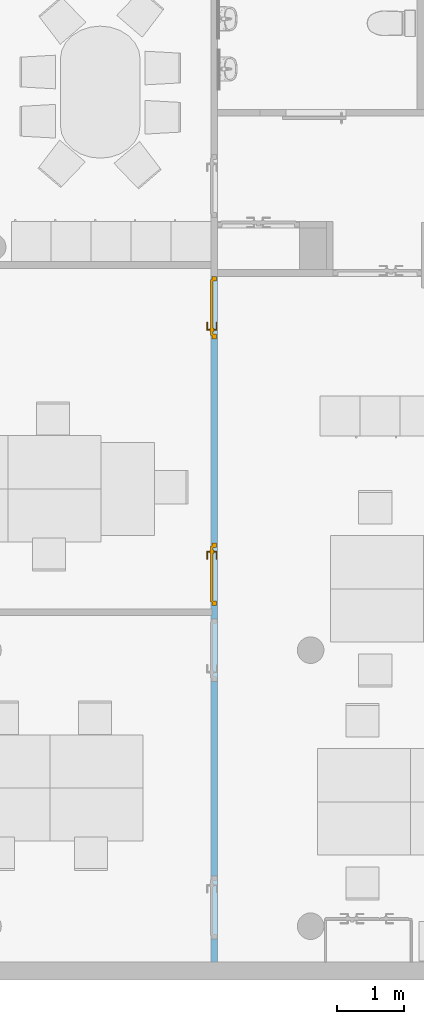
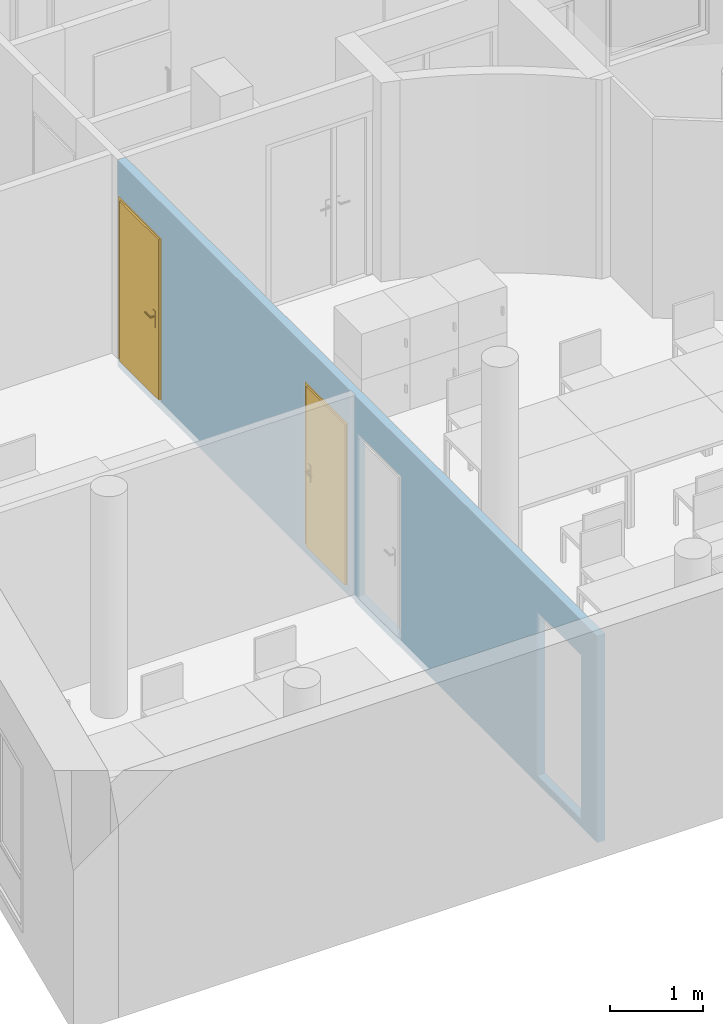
"""IFC4 building model written with IfcOpenShell, lengths in metres."""

from ifc_helpers import new_model, entity, si_unit, converted_unit, derived_unit, frame, origin, origin_with_axes, place, context, subcontext, project, spatial, polyline, outline, extrude, faceted_brep, source, transform, mapped, material, layer, layer_set, layer_usage, element, fill, save


model = new_model("IFC4")

# Units and contexts
model_context = context("Model", 3, precision=1e-05, world=origin())
body_context = subcontext(model_context, "Body", "Model", "MODEL_VIEW")
ifc_project = project(units=[si_unit("LENGTHUNIT", "METRE"), si_unit("AREAUNIT", "SQUARE_METRE"), si_unit("VOLUMEUNIT", "CUBIC_METRE"), si_unit("MASSUNIT", "GRAM", prefix="KILO"), converted_unit("PLANEANGLEUNIT", "DEGREE", entity("IfcPlaneAngleMeasure", 0.0174532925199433), si_unit("PLANEANGLEUNIT", "RADIAN"), dimensions=[0, 0, 0, 0, 0, 0, 0]), derived_unit("THERMALTRANSMITTANCEUNIT", [(si_unit("POWERUNIT", "WATT"), 1), (si_unit("THERMODYNAMICTEMPERATUREUNIT", "KELVIN"), -1), (si_unit("LENGTHUNIT", "METRE"), -2)]), derived_unit("VOLUMETRICFLOWRATEUNIT", [(si_unit("LENGTHUNIT", "METRE"), 3), (converted_unit("TIMEUNIT", "hour", entity("IfcTimeMeasure", 3600.0), si_unit("TIMEUNIT", "SECOND"), dimensions=[0, 0, 1, 0, 0, 0, 0]), -1), (si_unit("LENGTHUNIT", "METRE"), -1)])], contexts=[model_context])

# Building, storeys
building_placement = place(None, origin())
building = spatial("IfcBuilding", under=ifc_project, at=building_placement, Name="HABITATGE PLURIFAMILIAR", CompositionType="ELEMENT")
storey_1_placement = place(building_placement, frame((0.0, 0.0, 18.29)))
storey_1 = spatial("IfcBuildingStorey", under=building, at=storey_1_placement, Name="PLANTA CINQUENA", CompositionType="ELEMENT", Elevation=18.29)
storey_2_placement = place(storey_1_placement, frame((0.0, 0.0, 15.28)))
storey_2 = spatial("IfcBuildingStorey", under=storey_1, at=storey_2_placement, Name="NOU", CompositionType="PARTIAL")

# Wall, openings, doors
ifc_material = material()
ifc_layer = layer(ifc_material, 0.1)
ifc_layer_set = layer_set([ifc_layer])
ifc_layer_usage = layer_usage(ifc_layer_set, "AXIS2", "POSITIVE", 0.0)
wall_placement = place(storey_2_placement, frame((404.436984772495, 13.1106121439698, -15.38), z_axis=(0.0, 0.0, 1.0), x_axis=(0.0, 1.0, 0.0)))
wall = element("IfcWall", 1, at=wall_placement, inside=storey_2, material=ifc_layer_usage, Name="Mampara P5", context=body_context, shape_type="SweptSolid", body=[
    extrude(outline(polyline([(0.0, -0.1), (10.3088477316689, -0.1), (10.3088477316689, 0.0), (5.31089460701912, 0.0), (5.31089460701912, -0.0155478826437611), (5.21089460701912, -0.0155478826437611), (5.21089460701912, 0.0), (0.0, 0.0), (0.0, -0.1)])), frame((0.0, 0.1, 0.0), z_axis=(0.0, 0.0, 1.0), x_axis=(1.0, 0.0, 0.0)), (0.0, 0.0, 1.0), 2.71),
])
opening_1_placement = place(wall_placement, frame((9.36884773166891, 0.0, 0.1), z_axis=(0.0, 1.0, 0.0), x_axis=(0.0, 0.0, 1.0)))
opening_1 = element("IfcOpeningElement", 2, at=opening_1_placement, cuts=wall, Name="Vano porta P5", ObjectType="Opening", context=body_context, shape_type="SweptSolid", body=[
    extrude(outline(polyline([(2.15, 0.940000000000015), (2.15, 0.0), (0.0, 0.0), (0.0, 0.940000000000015), (2.15, 0.940000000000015)])), origin_with_axes(), (0.0, 0.0, 1.0), 0.1),
])
opening_2_placement = place(wall_placement, frame((5.36089460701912, 0.0, 0.1), z_axis=(0.0, 1.0, 0.0), x_axis=(0.0, 0.0, 1.0)))
opening_2 = element("IfcOpeningElement", 3, at=opening_2_placement, cuts=wall, Name="Vano porta P5", ObjectType="Opening", context=body_context, shape_type="SweptSolid", body=[
    extrude(outline(polyline([(2.15, 0.94), (2.15, 0.0), (0.0, 0.0), (0.0, 0.94), (2.15, 0.94)])), origin_with_axes(), (0.0, 0.0, 1.0), 0.1),
])
opening_3_placement = place(wall_placement, frame((4.22089460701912, 0.0, 0.1), z_axis=(0.0, 1.0, 0.0), x_axis=(0.0, 0.0, 1.0)))
element("IfcOpeningElement", 4, at=opening_3_placement, cuts=wall, Name="Vano porta P5", ObjectType="Opening", context=body_context, shape_type="SweptSolid", body=[
    extrude(outline(polyline([(2.15, 0.94), (2.15, 0.0), (0.0, 0.0), (0.0, 0.94), (2.15, 0.94)])), origin_with_axes(), (0.0, 0.0, 1.0), 0.1),
])
opening_4_placement = place(wall_placement, frame((0.35, 0.0, 0.1), z_axis=(0.0, 1.0, 0.0), x_axis=(0.0, 0.0, 1.0)))
element("IfcOpeningElement", 5, at=opening_4_placement, cuts=wall, Name="Vano porta P5", ObjectType="Opening", context=body_context, shape_type="SweptSolid", body=[
    extrude(outline(polyline([(2.15, 0.94), (2.15, 0.0), (0.0, 0.0), (0.0, 0.94), (2.15, 0.94)])), origin_with_axes(), (0.0, 0.0, 1.0), 0.1),
])
shared_shape_1 = source(origin_with_axes(), body_context, "Body", "Brep", [
    faceted_brep([(0.0, 0.0700000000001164, 2.15), (0.0, 0.0700000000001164, 0.0), (0.0699999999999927, 0.0700000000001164, 0.0), (0.0699999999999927, 0.0700000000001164, 2.15), (0.0, 0.0, 0.0), (0.0, 0.0, 2.15), (0.0699999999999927, 0.0, 2.15), (0.0699999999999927, 0.0, 0.0)], [[[0, 1, 2, 3]], [[4, 5, 6, 7]], [[1, 0, 5, 4]], [[2, 1, 4, 7]], [[3, 2, 7, 6]], [[0, 3, 6, 5]]], orient=[[False], [False], [False], [False], [False], [False]]),
    faceted_brep([(0.870000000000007, 0.0700000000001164, 2.15), (0.870000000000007, 0.0700000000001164, 0.0), (0.940000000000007, 0.0700000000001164, 0.0), (0.940000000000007, 0.0700000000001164, 2.15), (0.870000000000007, 0.0, 0.0), (0.870000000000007, 0.0, 2.15), (0.940000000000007, 0.0, 2.15), (0.940000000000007, 0.0, 0.0)], [[[0, 1, 2, 3]], [[4, 5, 6, 7]], [[1, 0, 5, 4]], [[2, 1, 4, 7]], [[3, 2, 7, 6]], [[0, 3, 6, 5]]], orient=[[False], [False], [False], [False], [False], [False]]),
    faceted_brep([(0.0699999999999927, 0.0700000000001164, 2.15), (0.0699999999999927, 0.0700000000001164, 2.08), (0.870000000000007, 0.0700000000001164, 2.08), (0.870000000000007, 0.0700000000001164, 2.15), (0.0699999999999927, 0.0, 2.08), (0.0699999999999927, 0.0, 2.15), (0.870000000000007, 0.0, 2.15), (0.870000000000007, 0.0, 2.08)], [[[0, 1, 2, 3]], [[4, 5, 6, 7]], [[1, 0, 5, 4]], [[2, 1, 4, 7]], [[3, 2, 7, 6]], [[0, 3, 6, 5]]], orient=[[False], [False], [False], [False], [False], [False]]),
    faceted_brep([(0.0499999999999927, 0.0900000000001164, 2.1), (0.0499999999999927, 0.0900000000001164, 0.0), (0.890000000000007, 0.0900000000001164, 0.0), (0.890000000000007, 0.0900000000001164, 2.1), (0.0499999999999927, 0.0500000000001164, 0.0), (0.0499999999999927, 0.0500000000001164, 2.1), (0.890000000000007, 0.0500000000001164, 2.1), (0.890000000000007, 0.0500000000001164, 0.0)], [[[0, 1, 2, 3]], [[4, 5, 6, 7]], [[1, 0, 5, 4]], [[2, 1, 4, 7]], [[3, 2, 7, 6]], [[0, 3, 6, 5]]], orient=[[False], [False], [False], [False], [False], [False]]),
    faceted_brep([(0.109999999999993, 0.0500000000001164, 1.125), (0.109999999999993, 0.0500000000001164, 0.91), (0.159999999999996, 0.0500000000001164, 0.91), (0.159999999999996, 0.0500000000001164, 1.125), (0.109999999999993, 0.0400000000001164, 0.91), (0.109999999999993, 0.0400000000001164, 1.125), (0.159999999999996, 0.0400000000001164, 1.125), (0.159999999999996, 0.0400000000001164, 0.91)], [[[0, 1, 2, 3]], [[4, 5, 6, 7]], [[1, 0, 5, 4]], [[2, 1, 4, 7]], [[3, 2, 7, 6]], [[0, 3, 6, 5]]], orient=[[False], [False], [False], [False], [False], [False]]),
    faceted_brep([(0.134999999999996, 0.0400000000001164, 1.06), (0.129999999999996, 0.0400000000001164, 1.05866025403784), (0.126339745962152, 0.0400000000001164, 1.055), (0.124999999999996, 0.0400000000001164, 1.05), (0.126339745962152, 0.0400000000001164, 1.045), (0.129999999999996, 0.0400000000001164, 1.04133974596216), (0.134999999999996, 0.0400000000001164, 1.04), (0.139999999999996, 0.0400000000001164, 1.04133974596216), (0.143660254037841, 0.0400000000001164, 1.045), (0.144999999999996, 0.0400000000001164, 1.05), (0.143660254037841, 0.0400000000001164, 1.055), (0.139999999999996, 0.0400000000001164, 1.05866025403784), (0.134999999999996, 0.0, 1.06), (0.129999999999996, -0.00499999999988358, 1.05866025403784), (0.126339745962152, -0.00866025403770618, 1.055), (0.124999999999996, -0.00999999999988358, 1.05), (0.126339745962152, -0.00866025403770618, 1.045), (0.129999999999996, -0.00499999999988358, 1.04133974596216), (0.134999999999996, 0.0, 1.04), (0.139999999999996, 0.00500000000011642, 1.04133974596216), (0.143660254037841, 0.00866025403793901, 1.045), (0.144999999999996, 0.0100000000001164, 1.05), (0.143660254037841, 0.00866025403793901, 1.055), (0.139999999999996, 0.00500000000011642, 1.05866025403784), (0.249999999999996, 0.0, 1.06), (0.249999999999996, 0.00500000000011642, 1.05866025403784), (0.249999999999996, 0.00866025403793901, 1.055), (0.249999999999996, 0.0100000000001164, 1.05), (0.249999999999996, 0.00866025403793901, 1.045), (0.249999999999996, 0.00500000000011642, 1.04133974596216), (0.249999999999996, 0.0, 1.04), (0.249999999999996, -0.00499999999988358, 1.04133974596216), (0.249999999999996, -0.00866025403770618, 1.045), (0.249999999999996, -0.00999999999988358, 1.05), (0.249999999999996, -0.00866025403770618, 1.055), (0.249999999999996, -0.00499999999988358, 1.05866025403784)], [[[0, 1, 2, 3, 4, 5, 6, 7, 8, 9, 10, 11]], [[0, 12, 13, 1]], [[1, 13, 14, 2]], [[2, 14, 15, 3]], [[3, 15, 16, 4]], [[4, 16, 17, 5]], [[5, 17, 18, 6]], [[6, 18, 19, 7]], [[7, 19, 20, 8]], [[8, 20, 21, 9]], [[9, 21, 22, 10]], [[10, 22, 23, 11]], [[11, 23, 12, 0]], [[24, 25, 26, 27, 28, 29, 30, 31, 32, 33, 34, 35]], [[12, 24, 35, 13]], [[13, 35, 34, 14]], [[14, 34, 33, 15]], [[15, 33, 32, 16]], [[16, 32, 31, 17]], [[17, 31, 30, 18]], [[18, 30, 29, 19]], [[19, 29, 28, 20]], [[20, 28, 27, 21]], [[21, 27, 26, 22]], [[22, 26, 25, 23]], [[23, 25, 24, 12]]], orient=[[False], [False], [False], [False], [False], [False], [False], [False], [False], [False], [False], [False], [False], [False], [False], [False], [False], [False], [False], [False], [False], [False], [False], [False], [False], [False]]),
    faceted_brep([(0.109999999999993, 0.0900000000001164, 1.125), (0.159999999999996, 0.0900000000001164, 1.125), (0.159999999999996, 0.0900000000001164, 0.91), (0.109999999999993, 0.0900000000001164, 0.91), (0.109999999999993, 0.100000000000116, 0.91), (0.159999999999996, 0.100000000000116, 0.91), (0.159999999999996, 0.100000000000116, 1.125), (0.109999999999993, 0.100000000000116, 1.125)], [[[0, 1, 2, 3]], [[4, 5, 6, 7]], [[3, 4, 7, 0]], [[2, 5, 4, 3]], [[1, 6, 5, 2]], [[0, 7, 6, 1]]], orient=[[False], [False], [False], [False], [False], [False]]),
    faceted_brep([(0.134999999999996, 0.100000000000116, 1.06), (0.139999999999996, 0.100000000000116, 1.05866025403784), (0.143660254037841, 0.100000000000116, 1.055), (0.144999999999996, 0.100000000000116, 1.05), (0.143660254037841, 0.100000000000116, 1.045), (0.139999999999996, 0.100000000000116, 1.04133974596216), (0.134999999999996, 0.100000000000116, 1.04), (0.129999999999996, 0.100000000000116, 1.04133974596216), (0.126339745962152, 0.100000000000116, 1.045), (0.124999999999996, 0.100000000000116, 1.05), (0.126339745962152, 0.100000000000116, 1.055), (0.129999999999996, 0.100000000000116, 1.05866025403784), (0.129999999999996, 0.145000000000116, 1.05866025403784), (0.134999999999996, 0.140000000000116, 1.06), (0.126339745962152, 0.148660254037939, 1.055), (0.124999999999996, 0.150000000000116, 1.05), (0.126339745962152, 0.148660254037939, 1.045), (0.129999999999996, 0.145000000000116, 1.04133974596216), (0.134999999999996, 0.140000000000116, 1.04), (0.139999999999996, 0.135000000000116, 1.04133974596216), (0.143660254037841, 0.131339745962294, 1.045), (0.144999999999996, 0.130000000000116, 1.05), (0.143660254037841, 0.131339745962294, 1.055), (0.139999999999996, 0.135000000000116, 1.05866025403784), (0.249999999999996, 0.140000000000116, 1.06), (0.249999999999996, 0.145000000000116, 1.05866025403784), (0.249999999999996, 0.148660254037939, 1.055), (0.249999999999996, 0.150000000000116, 1.05), (0.249999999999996, 0.148660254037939, 1.045), (0.249999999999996, 0.145000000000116, 1.04133974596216), (0.249999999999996, 0.140000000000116, 1.04), (0.249999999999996, 0.135000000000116, 1.04133974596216), (0.249999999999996, 0.131339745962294, 1.045), (0.249999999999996, 0.130000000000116, 1.05), (0.249999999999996, 0.131339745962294, 1.055), (0.249999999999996, 0.135000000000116, 1.05866025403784)], [[[0, 1, 2, 3, 4, 5, 6, 7, 8, 9, 10, 11]], [[0, 11, 12, 13]], [[11, 10, 14, 12]], [[10, 9, 15, 14]], [[9, 8, 16, 15]], [[8, 7, 17, 16]], [[7, 6, 18, 17]], [[6, 5, 19, 18]], [[5, 4, 20, 19]], [[4, 3, 21, 20]], [[3, 2, 22, 21]], [[2, 1, 23, 22]], [[1, 0, 13, 23]], [[24, 25, 26, 27, 28, 29, 30, 31, 32, 33, 34, 35]], [[13, 12, 25, 24]], [[12, 14, 26, 25]], [[14, 15, 27, 26]], [[15, 16, 28, 27]], [[16, 17, 29, 28]], [[17, 18, 30, 29]], [[18, 19, 31, 30]], [[19, 20, 32, 31]], [[20, 21, 33, 32]], [[21, 22, 34, 33]], [[22, 23, 35, 34]], [[23, 13, 24, 35]]], orient=[[False], [False], [False], [False], [False], [False], [False], [False], [False], [False], [False], [False], [False], [False], [False], [False], [False], [False], [False], [False], [False], [False], [False], [False], [False], [False]]),
])
door_1_placement = place(opening_1_placement, frame((0.0, 0.0, 0.015), z_axis=(1.0, 0.0, 0.0), x_axis=(0.0, 1.0, 0.0)))
door_1 = element("IfcDoor", 6, at=door_1_placement, inside=storey_2, Name="Porta P5", OperationType="USERDEFINED", OverallHeight=2.15, OverallWidth=0.94, PredefinedType="DOOR", context=body_context, shape_type="MappedRepresentation", body=[
    mapped(shared_shape_1, transform((0.0, 0.0, 0.0), x_axis=(1.0, 0.0, 0.0), y_axis=(0.0, 1.0, 0.0), z_axis=(0.0, 0.0, 1.0), scale=1.0)),
])
fill(opening_1, door_1)
shared_shape_2 = source(origin_with_axes(), body_context, "Body", "Brep", [
    faceted_brep([(0.939999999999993, 0.0700000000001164, 2.15), (0.869999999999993, 0.0700000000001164, 2.15), (0.869999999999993, 0.0700000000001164, 0.0), (0.939999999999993, 0.0700000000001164, 0.0), (0.939999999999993, 0.0, 0.0), (0.869999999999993, 0.0, 0.0), (0.869999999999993, 0.0, 2.15), (0.939999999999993, 0.0, 2.15)], [[[0, 1, 2, 3]], [[4, 5, 6, 7]], [[3, 4, 7, 0]], [[2, 5, 4, 3]], [[1, 6, 5, 2]], [[0, 7, 6, 1]]], orient=[[False], [False], [False], [False], [False], [False]]),
    faceted_brep([(0.0699999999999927, 0.0700000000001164, 2.15), (0.0, 0.0700000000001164, 2.15), (0.0, 0.0700000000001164, 0.0), (0.0699999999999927, 0.0700000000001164, 0.0), (0.0699999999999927, 0.0, 0.0), (0.0, 0.0, 0.0), (0.0, 0.0, 2.15), (0.0699999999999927, 0.0, 2.15)], [[[0, 1, 2, 3]], [[4, 5, 6, 7]], [[3, 4, 7, 0]], [[2, 5, 4, 3]], [[1, 6, 5, 2]], [[0, 7, 6, 1]]], orient=[[False], [False], [False], [False], [False], [False]]),
    faceted_brep([(0.869999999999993, 0.0700000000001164, 2.15), (0.0699999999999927, 0.0700000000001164, 2.15), (0.0699999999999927, 0.0700000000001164, 2.08), (0.869999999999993, 0.0700000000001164, 2.08), (0.869999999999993, 0.0, 2.08), (0.0699999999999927, 0.0, 2.08), (0.0699999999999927, 0.0, 2.15), (0.869999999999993, 0.0, 2.15)], [[[0, 1, 2, 3]], [[4, 5, 6, 7]], [[3, 4, 7, 0]], [[2, 5, 4, 3]], [[1, 6, 5, 2]], [[0, 7, 6, 1]]], orient=[[False], [False], [False], [False], [False], [False]]),
    faceted_brep([(0.889999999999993, 0.0900000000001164, 2.1), (0.0499999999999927, 0.0900000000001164, 2.1), (0.0499999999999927, 0.0900000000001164, 0.0), (0.889999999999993, 0.0900000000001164, 0.0), (0.889999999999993, 0.0500000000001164, 0.0), (0.0499999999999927, 0.0500000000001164, 0.0), (0.0499999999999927, 0.0500000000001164, 2.1), (0.889999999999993, 0.0500000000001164, 2.1)], [[[0, 1, 2, 3]], [[4, 5, 6, 7]], [[3, 4, 7, 0]], [[2, 5, 4, 3]], [[1, 6, 5, 2]], [[0, 7, 6, 1]]], orient=[[False], [False], [False], [False], [False], [False]]),
    faceted_brep([(0.829999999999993, 0.0500000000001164, 1.125), (0.779999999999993, 0.0500000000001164, 1.125), (0.779999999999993, 0.0500000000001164, 0.91), (0.829999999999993, 0.0500000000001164, 0.91), (0.829999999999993, 0.0400000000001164, 0.91), (0.779999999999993, 0.0400000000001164, 0.91), (0.779999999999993, 0.0400000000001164, 1.125), (0.829999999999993, 0.0400000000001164, 1.125)], [[[0, 1, 2, 3]], [[4, 5, 6, 7]], [[3, 4, 7, 0]], [[2, 5, 4, 3]], [[1, 6, 5, 2]], [[0, 7, 6, 1]]], orient=[[False], [False], [False], [False], [False], [False]]),
    faceted_brep([(0.804999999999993, 0.0400000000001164, 1.06), (0.799999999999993, 0.0400000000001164, 1.05866025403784), (0.796339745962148, 0.0400000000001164, 1.055), (0.794999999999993, 0.0400000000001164, 1.05), (0.796339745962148, 0.0400000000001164, 1.045), (0.799999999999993, 0.0400000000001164, 1.04133974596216), (0.804999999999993, 0.0400000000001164, 1.04), (0.809999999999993, 0.0400000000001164, 1.04133974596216), (0.813660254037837, 0.0400000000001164, 1.045), (0.814999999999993, 0.0400000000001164, 1.05), (0.813660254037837, 0.0400000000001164, 1.055), (0.809999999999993, 0.0400000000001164, 1.05866025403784), (0.809999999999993, -0.00499999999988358, 1.05866025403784), (0.804999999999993, 0.0, 1.06), (0.813660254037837, -0.00866025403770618, 1.055), (0.814999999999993, -0.00999999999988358, 1.05), (0.813660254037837, -0.00866025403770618, 1.045), (0.809999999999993, -0.00499999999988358, 1.04133974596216), (0.804999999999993, 0.0, 1.04), (0.799999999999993, 0.00500000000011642, 1.04133974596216), (0.796339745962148, 0.00866025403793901, 1.045), (0.794999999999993, 0.0100000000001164, 1.05), (0.796339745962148, 0.00866025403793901, 1.055), (0.799999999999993, 0.00500000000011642, 1.05866025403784), (0.689999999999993, 0.0, 1.06), (0.689999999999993, -0.00499999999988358, 1.05866025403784), (0.689999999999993, -0.00866025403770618, 1.055), (0.689999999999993, -0.00999999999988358, 1.05), (0.689999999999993, -0.00866025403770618, 1.045), (0.689999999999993, -0.00499999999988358, 1.04133974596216), (0.689999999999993, 0.0, 1.04), (0.689999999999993, 0.00500000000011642, 1.04133974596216), (0.689999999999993, 0.00866025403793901, 1.045), (0.689999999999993, 0.0100000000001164, 1.05), (0.689999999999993, 0.00866025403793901, 1.055), (0.689999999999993, 0.00500000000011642, 1.05866025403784)], [[[0, 1, 2, 3, 4, 5, 6, 7, 8, 9, 10, 11]], [[0, 11, 12, 13]], [[11, 10, 14, 12]], [[10, 9, 15, 14]], [[9, 8, 16, 15]], [[8, 7, 17, 16]], [[7, 6, 18, 17]], [[6, 5, 19, 18]], [[5, 4, 20, 19]], [[4, 3, 21, 20]], [[3, 2, 22, 21]], [[2, 1, 23, 22]], [[1, 0, 13, 23]], [[24, 25, 26, 27, 28, 29, 30, 31, 32, 33, 34, 35]], [[13, 12, 25, 24]], [[12, 14, 26, 25]], [[14, 15, 27, 26]], [[15, 16, 28, 27]], [[16, 17, 29, 28]], [[17, 18, 30, 29]], [[18, 19, 31, 30]], [[19, 20, 32, 31]], [[20, 21, 33, 32]], [[21, 22, 34, 33]], [[22, 23, 35, 34]], [[23, 13, 24, 35]]], orient=[[False], [False], [False], [False], [False], [False], [False], [False], [False], [False], [False], [False], [False], [False], [False], [False], [False], [False], [False], [False], [False], [False], [False], [False], [False], [False]]),
    faceted_brep([(0.829999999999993, 0.0900000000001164, 1.125), (0.829999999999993, 0.0900000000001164, 0.91), (0.779999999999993, 0.0900000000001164, 0.91), (0.779999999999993, 0.0900000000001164, 1.125), (0.829999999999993, 0.100000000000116, 0.91), (0.829999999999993, 0.100000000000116, 1.125), (0.779999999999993, 0.100000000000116, 1.125), (0.779999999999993, 0.100000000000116, 0.91)], [[[0, 1, 2, 3]], [[4, 5, 6, 7]], [[1, 0, 5, 4]], [[2, 1, 4, 7]], [[3, 2, 7, 6]], [[0, 3, 6, 5]]], orient=[[False], [False], [False], [False], [False], [False]]),
    faceted_brep([(0.804999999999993, 0.100000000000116, 1.06), (0.809999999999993, 0.100000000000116, 1.05866025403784), (0.813660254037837, 0.100000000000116, 1.055), (0.814999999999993, 0.100000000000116, 1.05), (0.813660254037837, 0.100000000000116, 1.045), (0.809999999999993, 0.100000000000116, 1.04133974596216), (0.804999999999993, 0.100000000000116, 1.04), (0.799999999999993, 0.100000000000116, 1.04133974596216), (0.796339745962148, 0.100000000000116, 1.045), (0.794999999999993, 0.100000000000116, 1.05), (0.796339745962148, 0.100000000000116, 1.055), (0.799999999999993, 0.100000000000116, 1.05866025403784), (0.804999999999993, 0.140000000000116, 1.06), (0.809999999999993, 0.145000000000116, 1.05866025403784), (0.813660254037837, 0.148660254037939, 1.055), (0.814999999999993, 0.150000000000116, 1.05), (0.813660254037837, 0.148660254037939, 1.045), (0.809999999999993, 0.145000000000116, 1.04133974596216), (0.804999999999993, 0.140000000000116, 1.04), (0.799999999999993, 0.135000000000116, 1.04133974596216), (0.796339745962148, 0.131339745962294, 1.045), (0.794999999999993, 0.130000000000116, 1.05), (0.796339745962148, 0.131339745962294, 1.055), (0.799999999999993, 0.135000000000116, 1.05866025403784), (0.689999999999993, 0.140000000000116, 1.06), (0.689999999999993, 0.135000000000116, 1.05866025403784), (0.689999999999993, 0.131339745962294, 1.055), (0.689999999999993, 0.130000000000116, 1.05), (0.689999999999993, 0.131339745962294, 1.045), (0.689999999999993, 0.135000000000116, 1.04133974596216), (0.689999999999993, 0.140000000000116, 1.04), (0.689999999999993, 0.145000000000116, 1.04133974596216), (0.689999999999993, 0.148660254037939, 1.045), (0.689999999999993, 0.150000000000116, 1.05), (0.689999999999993, 0.148660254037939, 1.055), (0.689999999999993, 0.145000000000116, 1.05866025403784)], [[[0, 1, 2, 3, 4, 5, 6, 7, 8, 9, 10, 11]], [[0, 12, 13, 1]], [[1, 13, 14, 2]], [[2, 14, 15, 3]], [[3, 15, 16, 4]], [[4, 16, 17, 5]], [[5, 17, 18, 6]], [[6, 18, 19, 7]], [[7, 19, 20, 8]], [[8, 20, 21, 9]], [[9, 21, 22, 10]], [[10, 22, 23, 11]], [[11, 23, 12, 0]], [[24, 25, 26, 27, 28, 29, 30, 31, 32, 33, 34, 35]], [[12, 24, 35, 13]], [[13, 35, 34, 14]], [[14, 34, 33, 15]], [[15, 33, 32, 16]], [[16, 32, 31, 17]], [[17, 31, 30, 18]], [[18, 30, 29, 19]], [[19, 29, 28, 20]], [[20, 28, 27, 21]], [[21, 27, 26, 22]], [[22, 26, 25, 23]], [[23, 25, 24, 12]]], orient=[[False], [False], [False], [False], [False], [False], [False], [False], [False], [False], [False], [False], [False], [False], [False], [False], [False], [False], [False], [False], [False], [False], [False], [False], [False], [False]]),
])
door_2_placement = place(opening_2_placement, frame((0.0, 0.0, 0.015), z_axis=(1.0, 0.0, 0.0), x_axis=(0.0, 1.0, 0.0)))
door_2 = element("IfcDoor", 7, at=door_2_placement, inside=storey_2, Name="Porta P5", OperationType="USERDEFINED", OverallHeight=2.15, OverallWidth=0.94, PredefinedType="DOOR", context=body_context, shape_type="MappedRepresentation", body=[
    mapped(shared_shape_2, transform((0.0, 0.0, 0.0), x_axis=(1.0, 0.0, 0.0), y_axis=(0.0, 1.0, 0.0), z_axis=(0.0, 0.0, 1.0), scale=1.0)),
])
fill(opening_2, door_2)

save(model, "model.ifc")
